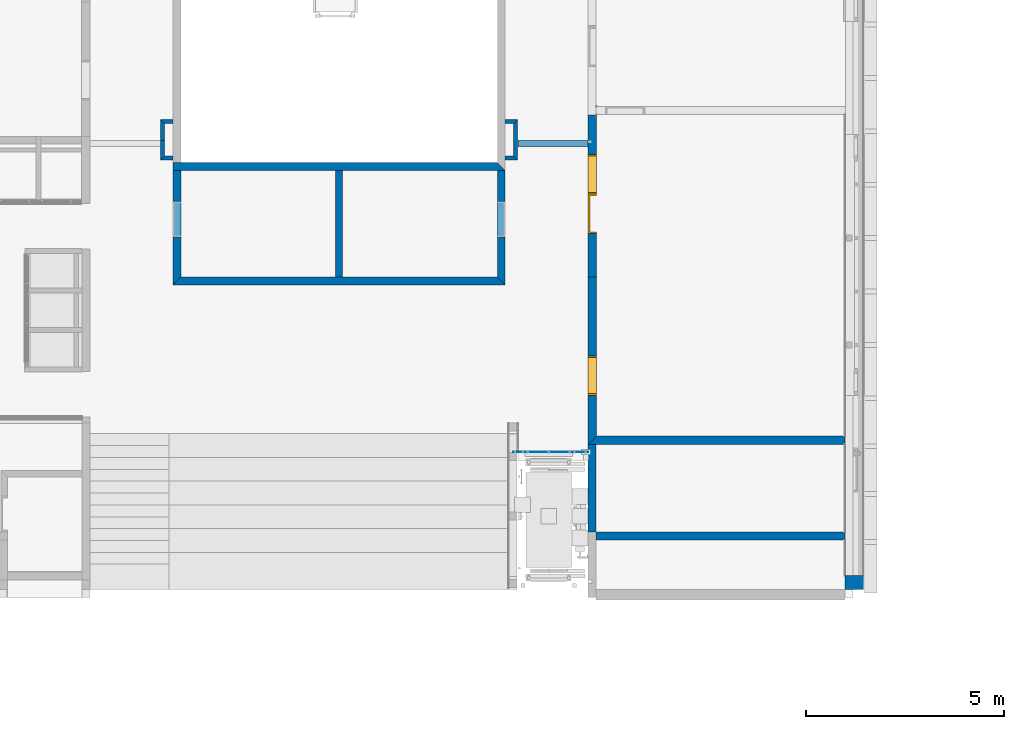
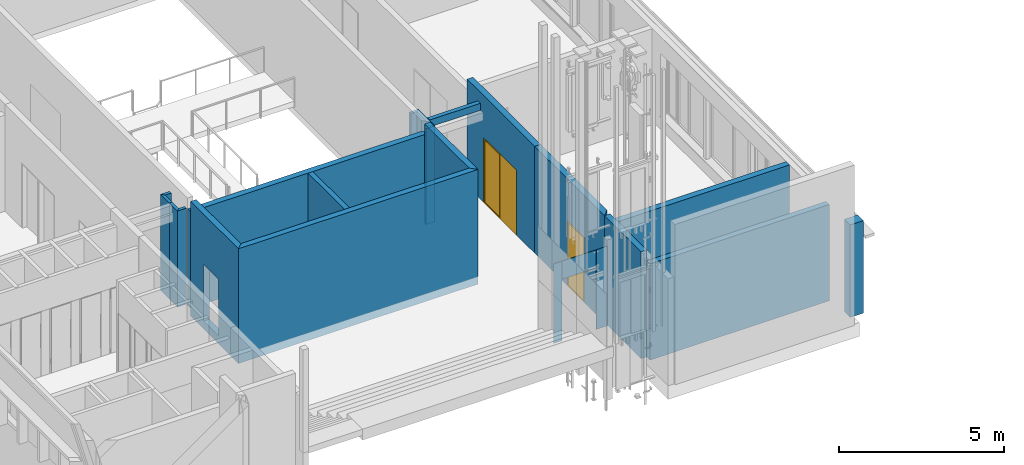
# One storey, part 13 of 89: 22 walls, 2 windows, 1 door, 5 openings.
"""IFC2X3 building model written with IfcOpenShell, lengths in millimetres."""

from ifc_helpers import new_model, entity, si_unit, converted_unit, derived_unit, money_unit, direction, frame, origin_with_axes, origin_2d_with_axis, place, context, subcontext, project, spatial, polyline, rectangle, outline, extrude, open_shell, faceted_brep, surface_model, source, transform, mapped, material, layer, layer_set, layer_usage, type_object, element, fill, save


model = new_model("IFC2X3")

# Units and contexts
model_context = context("Model", 3, precision=0.01, world=origin_with_axes(), true_north=direction((0.0, 1.0)))
body_context = subcontext(model_context, "Body", "Model", "MODEL_VIEW")
ifc_project = project(units=[si_unit("LENGTHUNIT", "METRE", prefix="MILLI"), si_unit("AREAUNIT", "SQUARE_METRE"), si_unit("VOLUMEUNIT", "CUBIC_METRE"), converted_unit("PLANEANGLEUNIT", "DEGREE", entity("IfcPlaneAngleMeasure", 0.0174532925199), si_unit("PLANEANGLEUNIT", "RADIAN"), dimensions=[0, 0, 0, 0, 0, 0, 0]), si_unit("SOLIDANGLEUNIT", "STERADIAN"), money_unit("EUR"), converted_unit("TIMEUNIT", "Year", entity("IfcTimeMeasure", 31556926.0), si_unit("TIMEUNIT", "SECOND"), dimensions=[0, 0, 1, 0, 0, 0, 0]), si_unit("MASSUNIT", "GRAM", prefix="KILO"), si_unit("THERMODYNAMICTEMPERATUREUNIT", "DEGREE_CELSIUS"), si_unit("LUMINOUSINTENSITYUNIT", "LUMEN"), si_unit("ENERGYUNIT", "JOULE", prefix="MEGA"), derived_unit("THERMALCONDUCTANCEUNIT", [(si_unit("POWERUNIT", "WATT"), 1), (si_unit("LENGTHUNIT", "METRE"), -1), (si_unit("THERMODYNAMICTEMPERATUREUNIT", "KELVIN"), -1)]), derived_unit("SPECIFICHEATCAPACITYUNIT", [(si_unit("ENERGYUNIT", "JOULE"), 1), (si_unit("MASSUNIT", "GRAM", prefix="KILO"), -1), (si_unit("THERMODYNAMICTEMPERATUREUNIT", "KELVIN"), -1)]), derived_unit("MASSDENSITYUNIT", [(si_unit("MASSUNIT", "GRAM", prefix="KILO"), 1), (si_unit("VOLUMEUNIT", "CUBIC_METRE"), -1)])], contexts=[model_context])

# Site, building, storey
site_placement = place(None, origin_with_axes())
site = spatial("IfcSite", under=ifc_project, at=site_placement, Name="Puškini 31, Narva", CompositionType="ELEMENT")
building_placement = place(site_placement, origin_with_axes())
building = spatial("IfcBuilding", under=site, at=building_placement, Name="Narva Riigigümnaasium", CompositionType="ELEMENT")
storey_placement = place(building_placement, frame((0.0, 0.0, -3300.0), z_axis=(0.0, 0.0, 1.0), x_axis=(1.0, 0.0, 0.0)))
storey = spatial("IfcBuildingStorey", under=building, at=storey_placement, Name="1.korrus -3.3", CompositionType="ELEMENT", Elevation=-3300.0)

# Walls
ifc_material_1 = material(Name="fassaadiplaat")
ifc_layer_1 = layer(ifc_material_1, 8.0, ventilated="UNKNOWN")
ifc_material_2 = material(Name="Salto-roovitus")
ifc_layer_2 = layer(ifc_material_2, 50.0, ventilated="UNKNOWN")
ifc_material_3 = material(Name="Salto-PIR soojustus")
ifc_layer_3 = layer(ifc_material_3, 50.0, ventilated="UNKNOWN")
ifc_layer_4 = layer(ifc_material_3, 150.0, ventilated="UNKNOWN")
ifc_material_4 = material(Name="Betoon element")
ifc_layer_5 = layer(ifc_material_4, 200.0, ventilated="UNKNOWN")
ifc_material_5 = material(Name="Salto-siseviimistlus-seinad")
ifc_layer_6 = layer(ifc_material_5, 10.0, ventilated="UNKNOWN")
ifc_layer_set_1 = layer_set([ifc_layer_1, ifc_layer_2, ifc_layer_3, ifc_layer_4, ifc_layer_5, ifc_layer_6], Name="G-VS-01")
ifc_layer_usage_1 = layer_usage(ifc_layer_set_1, "AXIS2", "NEGATIVE", 458.0)
wall_type_1 = type_object("IfcWallType", Name="G-VS-01 468", PredefinedType="NOTDEFINED")
wall_1_placement = place(storey_placement, frame((54000.000001, 195251.0, 136.939766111), z_axis=(0.0, 0.0, 1.0), x_axis=(0.0, -1.0, 0.0)))
element("IfcWallStandardCase", 1, at=wall_1_placement, inside=storey, type_object=wall_type_1, material=ifc_layer_usage_1, Name="Välissein", context=body_context, shape_type="SweptSolid", body=[
    extrude(outline(polyline([(0.0, -10.0), (351.0, -10.0), (351.0, 458.0), (0.0, 458.0), (0.0, -10.0)])), origin_with_axes(), (0.0, 0.0, 1.0), 3428.06023389),
])
ifc_layer_set_2 = layer_set([ifc_layer_5], Name="G-SS-01")
ifc_layer_usage_2 = layer_usage(ifc_layer_set_2, "AXIS2", "NEGATIVE", 0.0)
wall_type_2 = type_object("IfcWallType", Name="G-SS-01 200", PredefinedType="NOTDEFINED")
wall_2_placement = place(storey_placement, frame((45199.9999996, 202600.0, -290.0), z_axis=(0.0, 0.0, 1.0), x_axis=(-1.0, 0.0, 0.0)))
element("IfcWallStandardCase", 2, at=wall_2_placement, inside=storey, type_object=wall_type_2, material=ifc_layer_usage_2, Name="Sisesein", context=body_context, shape_type="SweptSolid", body=[
    extrude(outline(polyline([(0.0, -200.0), (8000.06783257, -200.0), (8200.06783257, 0.0), (-200.0, 0.0), (0.0, -200.0)])), origin_with_axes(), (0.0, 0.0, 1.0), 4250.0),
])

# Wall, opening
wall_3_placement = place(storey_placement, frame((45199.9999996, 202600.000006, -290.0), z_axis=(0.0, 0.0, 1.0), x_axis=(0.0, 1.0, 0.0)))
wall_3 = element("IfcWallStandardCase", 3, at=wall_3_placement, inside=storey, type_object=wall_type_2, material=ifc_layer_usage_2, Name="Sisesein", context=body_context, shape_type="SweptSolid", body=[
    extrude(outline(polyline([(-5.93698246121e-06, -200.0), (2900.00001827, -200.0), (2900.00001827, 0.0), (199.999994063, 0.0), (-5.93698246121e-06, -200.0)])), origin_with_axes(), (0.0, 0.0, 1.0), 4250.0),
])
opening_1_placement = place(wall_3_placement, frame((1665.00026742, 0.0, 290.0), z_axis=(0.0, 0.0, 1.0), x_axis=(1.0, 0.0, 0.0)))
element("IfcOpeningElement", 4, at=opening_1_placement, cuts=wall_3, Name="G-SU-038", context=body_context, shape_type="SweptSolid", body=[
    extrude(rectangle(XDim=900.0, YDim=2100.0, at=origin_2d_with_axis()), frame((0.0, 200.0, 1050.0), z_axis=(0.0, 1.0, 0.0), x_axis=(1.0, 0.0, 0.0)), (0.0, 0.0, -1.0), 600.0),
])

wall_4_placement = place(storey_placement, frame((37199.932167, 205700.000024, -290.0), z_axis=(0.0, 0.0, 1.0), x_axis=(0.0, -1.0, 0.0)))
wall_4 = element("IfcWallStandardCase", 5, at=wall_4_placement, inside=storey, type_object=wall_type_2, material=ifc_layer_usage_2, Name="Sisesein", context=body_context, shape_type="SweptSolid", body=[
    extrude(outline(polyline([(200.0, -200.0), (3100.00002421, -200.0), (2900.00002421, 0.0), (200.0, 0.0), (200.0, -200.0)])), origin_with_axes(), (0.0, 0.0, 1.0), 4250.0),
])
opening_2_placement = place(wall_4_placement, frame((1434.9998066, 0.0, 290.0), z_axis=(0.0, 0.0, 1.0), x_axis=(1.0, 0.0, 0.0)))
element("IfcOpeningElement", 6, at=opening_2_placement, cuts=wall_4, Name="G-SU-037", context=body_context, shape_type="SweptSolid", body=[
    extrude(rectangle(XDim=900.0, YDim=2100.0, at=origin_2d_with_axis()), frame((0.0, 200.0, 1050.0), z_axis=(0.0, -1.0, 0.0), x_axis=(-1.0, 0.0, 0.0)), (0.0, 0.0, 1.0), 600.0),
])

# Walls
wall_5_placement = place(storey_placement, frame((37000.0113588, 205700.000024, 0.0), z_axis=(0.0, 0.0, 1.0), x_axis=(1.0, 0.0, 0.0)))
element("IfcWallStandardCase", 7, at=wall_5_placement, inside=storey, type_object=wall_type_2, material=ifc_layer_usage_2, Name="Sisesein", context=body_context, shape_type="SweptSolid", body=[
    extrude(outline(polyline([(0.0, -200.0), (8399.98849607, -200.0), (8199.98849607, 0.0), (0.0, 0.0), (0.0, -200.0)])), origin_with_axes(), (0.0, 0.0, 1.0), 3565.0),
])
ifc_layer_usage_3 = layer_usage(ifc_layer_set_2, "AXIS2", "POSITIVE", 0.0)
wall_6_placement = place(storey_placement, frame((47499.9999928, 198570.000004, 0.0), z_axis=(0.0, 0.0, 1.0), x_axis=(0.0, -1.0, 0.0)))
element("IfcWallStandardCase", 8, at=wall_6_placement, inside=storey, type_object=wall_type_2, material=ifc_layer_usage_3, Name="Sisesein", context=body_context, shape_type="SweptSolid", body=[
    extrude(outline(polyline([(0.0, 0.0), (2220.00000313, 0.0), (2220.00000313, 200.0), (0.0, 200.0), (0.0, 0.0)])), origin_with_axes(), (0.0, 0.0, 1.0), 3960.0),
])
wall_7_placement = place(storey_placement, frame((54000.000001, 196150.0, 0.0), z_axis=(0.0, 0.0, 1.0), x_axis=(-1.0, 0.0, 0.0)))
element("IfcWallStandardCase", 9, at=wall_7_placement, inside=storey, type_object=wall_type_2, material=ifc_layer_usage_2, Name="Sisesein", context=body_context, shape_type="SweptSolid", body=[
    extrude(outline(polyline([(10.0, -200.0), (6300.00000824, -200.0), (6300.00000824, 0.0), (10.0, 0.0), (10.0, -200.0)])), origin_with_axes(), (0.0, 0.0, 1.0), 3565.0),
])
ifc_material_6 = material(Name="siseviimistlus-seinad")
ifc_layer_7 = layer(ifc_material_6, 15.0, ventilated="UNKNOWN")
ifc_material_7 = material(Name="Kipsplaat")
ifc_layer_8 = layer(ifc_material_7, 12.5, ventilated="UNKNOWN")
ifc_layer_9 = layer(ifc_material_7, 12.0, ventilated="UNKNOWN")
ifc_material_8 = material(Name="Karkass")
ifc_layer_10 = layer(ifc_material_8, 66.0, ventilated="UNKNOWN")
ifc_layer_set_3 = layer_set([ifc_layer_7, ifc_layer_8, ifc_layer_9, ifc_layer_10], Name="G-SS-06")
ifc_layer_usage_4 = layer_usage(ifc_layer_set_3, "AXIS2", "POSITIVE", 0.0)
wall_type_3 = type_object("IfcWallType", Name="G-SS-06 106", PredefinedType="NOTDEFINED")
wall_8_placement = place(storey_placement, frame((36686.0042688, 206250.0, 0.0), z_axis=(0.0, 0.0, 1.0), x_axis=(0.0, -1.0, 0.0)))
element("IfcWallStandardCase", 10, at=wall_8_placement, inside=storey, type_object=wall_type_3, material=ifc_layer_usage_4, Name="Sisesein", context=body_context, shape_type="SweptSolid", body=[
    extrude(outline(polyline([(0.0, 0.0), (493.992738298, 0.0), (388.492738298, 105.5), (0.0, 105.5), (0.0, 0.0)])), origin_with_axes(), (0.0, 0.0, 1.0), 3555.0),
])
ifc_layer_usage_5 = layer_usage(ifc_layer_set_3, "AXIS2", "NEGATIVE", 0.0)
wall_9_placement = place(storey_placement, frame((36686.0042688, 206250.0, 0.0), z_axis=(0.0, 0.0, 1.0), x_axis=(0.0, 1.0, 0.0)))
element("IfcWallStandardCase", 11, at=wall_9_placement, inside=storey, type_object=wall_type_3, material=ifc_layer_usage_5, Name="Sisesein", context=body_context, shape_type="SweptSolid", body=[
    extrude(outline(polyline([(0.0, -105.5), (427.500162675, -105.5), (533.000162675, 0.0), (0.0, 0.0), (0.0, -105.5)])), origin_with_axes(), (0.0, 0.0, 1.0), 3555.0),
])
wall_10_placement = place(storey_placement, frame((36686.0042688, 205756.007262, 0.0), z_axis=(0.0, 0.0, 1.0), x_axis=(1.0, 0.0, 0.0)))
element("IfcWallStandardCase", 12, at=wall_10_placement, inside=storey, type_object=wall_type_3, material=ifc_layer_usage_4, Name="Sisesein", context=body_context, shape_type="SweptSolid", body=[
    extrude(outline(polyline([(0.0, 0.0), (314.0, 0.0), (314.0, 105.5), (105.5, 105.5), (0.0, 0.0)])), origin_with_axes(), (0.0, 0.0, 1.0), 3555.0),
])
wall_11_placement = place(storey_placement, frame((36686.0042688, 206783.000163, 0.0), z_axis=(0.0, 0.0, 1.0), x_axis=(1.0, 0.0, 0.0)))
element("IfcWallStandardCase", 13, at=wall_11_placement, inside=storey, type_object=wall_type_3, material=ifc_layer_usage_5, Name="Sisesein", context=body_context, shape_type="SweptSolid", body=[
    extrude(outline(polyline([(105.5, -105.5), (314.0, -105.5), (314.0, 0.0), (0.0, 0.0), (105.5, -105.5)])), origin_with_axes(), (0.0, 0.0, 1.0), 3555.0),
])
wall_12_placement = place(storey_placement, frame((45713.9961864, 206783.000163, 0.0), z_axis=(0.0, 0.0, 1.0), x_axis=(0.0, -1.0, 0.0)))
element("IfcWallStandardCase", 14, at=wall_12_placement, inside=storey, type_object=wall_type_3, material=ifc_layer_usage_5, Name="Sisesein", context=body_context, shape_type="SweptSolid", body=[
    extrude(outline(polyline([(105.5, -105.5), (921.492900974, -105.5), (1026.99290097, 0.0), (0.0, 0.0), (105.5, -105.5)])), origin_with_axes(), (0.0, 0.0, 1.0), 3555.0),
])
wall_13_placement = place(storey_placement, frame((45713.9961864, 206783.000163, 0.0), z_axis=(0.0, 0.0, 1.0), x_axis=(-1.0, 0.0, 0.0)))
element("IfcWallStandardCase", 15, at=wall_13_placement, inside=storey, type_object=wall_type_3, material=ifc_layer_usage_4, Name="Sisesein", context=body_context, shape_type="SweptSolid", body=[
    extrude(outline(polyline([(0.0, 0.0), (313.996331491, 0.0), (313.996331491, 105.5), (105.5, 105.5), (0.0, 0.0)])), origin_with_axes(), (0.0, 0.0, 1.0), 3555.0),
])
wall_14_placement = place(storey_placement, frame((45713.9961864, 205756.007262, 0.0), z_axis=(0.0, 0.0, 1.0), x_axis=(-1.0, 0.0, 0.0)))
element("IfcWallStandardCase", 16, at=wall_14_placement, inside=storey, type_object=wall_type_3, material=ifc_layer_usage_5, Name="Sisesein", context=body_context, shape_type="SweptSolid", body=[
    extrude(outline(polyline([(105.5, -105.5), (313.996331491, -105.5), (313.996331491, 0.0), (0.0, 0.0), (105.5, -105.5)])), origin_with_axes(), (0.0, 0.0, 1.0), 3555.0),
])
ifc_material_9 = material(Name="SKR-02_Kipsplaat")
ifc_layer_11 = layer(ifc_material_9, 12.5, ventilated="UNKNOWN")
ifc_material_10 = material(Name="SOJ-03_Soojustus - Mineraal Pehme")
ifc_layer_12 = layer(ifc_material_10, 100.0, ventilated="UNKNOWN")
ifc_layer_set_4 = layer_set([ifc_layer_11, ifc_layer_11, ifc_layer_12, ifc_layer_11, ifc_layer_11], Name="G-SS-09")
ifc_layer_usage_6 = layer_usage(ifc_layer_set_4, "AXIS2", "NEGATIVE", 0.0)
wall_type_4 = type_object("IfcWallType", Name="G-SS-09 150", PredefinedType="NOTDEFINED")
wall_15_placement = place(storey_placement, frame((45719.9961864, 206250.0, 3295.0), z_axis=(0.0, 0.0, 1.0), x_axis=(1.0, 0.0, 0.0)))
element("IfcWallStandardCase", 17, at=wall_15_placement, inside=storey, type_object=wall_type_4, material=ifc_layer_usage_6, Name="Sisesein", context=body_context, shape_type="SweptSolid", body=[
    extrude(outline(polyline([(0.0, -150.0), (1780.00380639, -150.0), (1780.00380639, 0.0), (0.0, 0.0), (0.0, -150.0)])), origin_with_axes(), (0.0, 0.0, 1.0), 260.0),
])
ifc_material_11 = material(Name="Klaas")
ifc_layer_13 = layer(ifc_material_11, 12.0, ventilated="UNKNOWN")
ifc_layer_set_5 = layer_set([ifc_layer_13], Name="Klaas 12")
ifc_layer_usage_7 = layer_usage(ifc_layer_set_5, "AXIS2", "NEGATIVE", 12.0)
wall_type_5 = type_object("IfcWallType", Name="Klaas 12", PredefinedType="NOTDEFINED")
wall_16_placement = place(storey_placement, frame((45604.9999993, 198372.0, 0.0), z_axis=(0.0, 0.0, 1.0), x_axis=(1.0, 0.0, 0.0)))
element("IfcWallStandardCase", 18, at=wall_16_placement, inside=storey, type_object=wall_type_5, material=ifc_layer_usage_7, Name="Sisesein", context=body_context, shape_type="SweptSolid", body=[
    extrude(outline(polyline([(0.0, 0.0), (295.000000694, 0.0), (295.000000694, 12.0), (0.0, 12.0), (0.0, 0.0)])), origin_with_axes(), (0.0, 0.0, 1.0), 2949.0),
])
wall_17_placement = place(storey_placement, frame((47100.0, 198372.0, 0.0), z_axis=(0.0, 0.0, 1.0), x_axis=(1.0, 0.0, 0.0)))
element("IfcWallStandardCase", 19, at=wall_17_placement, inside=storey, type_object=wall_type_5, material=ifc_layer_usage_7, Name="Sisesein", context=body_context, shape_type="SweptSolid", body=[
    extrude(outline(polyline([(0.0, 0.0), (395.0, 0.0), (395.0, 12.0), (0.0, 12.0), (0.0, 0.0)])), origin_with_axes(), (0.0, 0.0, 1.0), 2949.0),
])
wall_18_placement = place(storey_placement, frame((45905.0, 198372.0, 2280.00001822), z_axis=(0.0, 0.0, 1.0), x_axis=(1.0, 0.0, 0.0)))
element("IfcWallStandardCase", 20, at=wall_18_placement, inside=storey, type_object=wall_type_5, material=ifc_layer_usage_7, Name="Sisesein", context=body_context, shape_type="SweptSolid", body=[
    extrude(outline(polyline([(0.0, 0.0), (1190.0, 0.0), (1190.0, 12.0), (0.0, 12.0), (0.0, 0.0)])), origin_with_axes(), (0.0, 0.0, 1.0), 668.999981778),
])

# Wall, openings, window, door
ifc_layer_14 = layer(ifc_material_6, 10.0, ventilated="UNKNOWN")
ifc_layer_set_6 = layer_set([ifc_layer_5, ifc_layer_14], Name="G-SS-01-02")
ifc_layer_usage_8 = layer_usage(ifc_layer_set_6, "AXIS2", "POSITIVE", 0.0)
wall_type_6 = type_object("IfcWallType", Name="G-SS-01-02 210", PredefinedType="NOTDEFINED")
wall_19_placement = place(storey_placement, frame((47499.9999928, 206900.000002, 0.0), z_axis=(0.0, 0.0, 1.0), x_axis=(0.0, -1.0, 0.0)))
wall_19 = element("IfcWallStandardCase", 21, at=wall_19_placement, inside=storey, type_object=wall_type_6, material=ifc_layer_usage_8, Name="Sisesein", context=body_context, shape_type="SweptSolid", body=[
    extrude(outline(polyline([(0.0, 0.0), (4099.99999602, 0.0), (4099.99999602, 210.0), (0.0, 210.0), (0.0, 0.0)])), origin_with_axes(), (0.0, 0.0, 1.0), 3960.0),
])
opening_3_placement = place(wall_19_placement, frame((1500.0, 0.0, 0.0), z_axis=(0.0, 0.0, 1.0), x_axis=(1.0, 0.0, 0.0)))
opening_3 = element("IfcOpeningElement", 22, at=opening_3_placement, cuts=wall_19, Name="G-SA-2", context=body_context, shape_type="SweptSolid", body=[
    extrude(rectangle(XDim=1000.0, YDim=2400.0, at=origin_2d_with_axis()), frame((0.0, 210.0, 1200.0), z_axis=(0.0, -1.0, 0.0), x_axis=(-1.0, 0.0, 0.0)), (0.0, 0.0, 1.0), 630.0),
])
opening_4_placement = place(wall_19_placement, frame((2500.0, 0.0, 0.0), z_axis=(0.0, 0.0, 1.0), x_axis=(1.0, 0.0, 0.0)))
opening_4 = element("IfcOpeningElement", 23, at=opening_4_placement, cuts=wall_19, Name="G-SU-035", context=body_context, shape_type="SweptSolid", body=[
    extrude(rectangle(XDim=1000.0, YDim=2400.0, at=origin_2d_with_axis()), frame((0.0, 210.0, 1200.0), z_axis=(0.0, 1.0, 0.0), x_axis=(1.0, 0.0, 0.0)), (0.0, 0.0, -1.0), 630.0),
])
window_style = type_object("IfcWindowStyle", Name="Window 23", ConstructionType="NOTDEFINED", OperationType="SINGLE_PANEL", ParameterTakesPrecedence=False, Sizeable=False)
shared_shape_1 = source(origin_with_axes(), body_context, "Body", "SurfaceModel", [
    faceted_brep([(-460.0, -210.0, 2360.0), (-460.0, 0.0, 2360.0), (-500.0, 0.0, 2360.0), (-500.0, -210.0, 2360.0), (-460.0, -210.0, 40.0), (-460.0, 0.0, 40.0), (-500.0, 0.0, 40.0), (-500.0, -210.0, 40.0)], [[[0, 1, 2, 3]], [[4, 5, 1, 0]], [[1, 5, 6, 2]], [[3, 2, 6, 7]], [[0, 3, 7, 4]], [[7, 6, 5, 4]]]),
    faceted_brep([(460.0, -210.0, 40.0), (460.0, 0.0, 40.0), (500.0, 0.0, 40.0), (500.0, -210.0, 40.0), (460.0, -210.0, 2360.0), (460.0, 0.0, 2360.0), (500.0, 0.0, 2360.0), (500.0, -210.0, 2360.0)], [[[0, 1, 2, 3]], [[4, 5, 1, 0]], [[1, 5, 6, 2]], [[3, 2, 6, 7]], [[0, 3, 7, 4]], [[7, 6, 5, 4]]]),
    faceted_brep([(-460.0, -210.0, 40.0), (-460.0, 0.0, 40.0), (-500.0, 0.0, 40.0), (-500.0, -210.0, 40.0), (460.0, -210.0, 40.0), (460.0, 0.0, 40.0), (500.0, 0.0, 40.0), (500.0, 0.0, 0.0), (-500.0, 0.0, 0.0), (-500.0, -210.0, 0.0), (500.0, -210.0, 0.0), (500.0, -210.0, 40.0)], [[[0, 1, 2, 3]], [[4, 5, 1, 0]], [[1, 5, 6, 7, 8, 2]], [[3, 2, 8, 9]], [[0, 3, 9, 10, 11, 4]], [[11, 6, 5, 4]], [[10, 7, 6, 11]], [[9, 8, 7, 10]]]),
    faceted_brep([(460.0, -210.0, 2360.0), (460.0, 0.0, 2360.0), (500.0, 0.0, 2360.0), (500.0, -210.0, 2360.0), (-460.0, -210.0, 2360.0), (-460.0, 0.0, 2360.0), (-500.0, 0.0, 2360.0), (-500.0, 0.0, 2400.0), (500.0, 0.0, 2400.0), (500.0, -210.0, 2400.0), (-500.0, -210.0, 2400.0), (-500.0, -210.0, 2360.0)], [[[0, 1, 2, 3]], [[4, 5, 1, 0]], [[1, 5, 6, 7, 8, 2]], [[3, 2, 8, 9]], [[0, 3, 9, 10, 11, 4]], [[11, 6, 5, 4]], [[10, 7, 6, 11]], [[9, 8, 7, 10]]]),
    surface_model("IfcShellBasedSurfaceModel", [(-460.0, -35.0, 40.0), (460.0, -35.0, 40.0), (460.0, -35.0, 2360.0), (-460.0, -35.0, 2360.0)], [open_shell([[[0, 1, 2, 3]]])]),
    surface_model("IfcShellBasedSurfaceModel", [(-460.0, -15.0, 40.0), (-460.0, -15.0, 2360.0), (460.0, -15.0, 2360.0), (460.0, -15.0, 40.0)], [open_shell([[[0, 1, 2, 3]]])]),
])
window_1_placement = place(opening_3_placement, frame((500.0, 0.0, 0.0), z_axis=(0.0, 0.0, 1.0), x_axis=(-1.0, 0.0, 0.0)))
window_1 = element("IfcWindow", 24, at=window_1_placement, inside=storey, type_object=window_style, Name="G-SA-2", ObjectType="WINDOW", OverallHeight=2400.0, OverallWidth=1000.0, context=body_context, shape_type="MappedRepresentation", body=[
    mapped(shared_shape_1, transform((500.0, 0.0, 0.0))),
])
fill(opening_3, window_1)
door_style = type_object("IfcDoorStyle", Name="Door 23", ConstructionType="NOTDEFINED", OperationType="SINGLE_SWING_LEFT", ParameterTakesPrecedence=False, Sizeable=False)
shared_shape_2 = source(origin_with_axes(), body_context, "Body", "Brep", [
    faceted_brep([(460.0, -40.0, 0.0), (460.0, -210.0, 0.0), (460.0, -210.0, 2360.0), (460.0, -40.0, 2360.0), (472.0, -40.0, 0.0), (472.0, 0.0, 0.0), (500.0, 0.0, 0.0), (500.0, -210.0, 0.0), (500.0, -210.0, 2360.0), (472.0, -40.0, 2360.0), (500.0, 0.0, 2360.0), (472.0, 0.0, 2360.0)], [[[0, 1, 2, 3]], [[4, 5, 6, 7, 1, 0]], [[1, 7, 8, 2]], [[9, 3, 2, 8, 10, 11]], [[9, 4, 0, 3]], [[11, 5, 4, 9]], [[11, 10, 6, 5]], [[6, 10, 8, 7]]]),
    faceted_brep([(-472.0, -40.0, 2360.0), (-472.0, 0.0, 2360.0), (-500.0, 0.0, 2360.0), (-500.0, -210.0, 2360.0), (-460.0, -210.0, 2360.0), (-460.0, -40.0, 2360.0), (-472.0, -40.0, 0.0), (-472.0, 0.0, 0.0), (-500.0, 0.0, 0.0), (-500.0, -210.0, 0.0), (-460.0, -210.0, 0.0), (-460.0, -40.0, 0.0)], [[[0, 1, 2, 3, 4, 5]], [[0, 6, 7, 1]], [[7, 8, 2, 1]], [[2, 8, 9, 3]], [[3, 9, 10, 4]], [[5, 4, 10, 11]], [[5, 11, 6, 0]], [[6, 11, 10, 9, 8, 7]]]),
    faceted_brep([(472.0, 0.0, 2372.0), (-472.0, 0.0, 2372.0), (-472.0, 0.0, 2360.0), (-500.0, 0.0, 2360.0), (-500.0, 0.0, 2400.0), (500.0, 0.0, 2400.0), (500.0, 0.0, 2360.0), (472.0, 0.0, 2360.0), (472.0, -40.0, 2372.0), (-472.0, -40.0, 2372.0), (-472.0, -40.0, 2360.0), (-460.0, -40.0, 2360.0), (-460.0, -210.0, 2360.0), (-500.0, -210.0, 2360.0), (-500.0, -210.0, 2400.0), (500.0, -210.0, 2400.0), (500.0, -210.0, 2360.0), (472.0, -40.0, 2360.0), (460.0, -210.0, 2360.0), (460.0, -40.0, 2360.0)], [[[0, 1, 2, 3, 4, 5, 6, 7]], [[0, 8, 9, 1]], [[1, 9, 10, 2]], [[10, 11, 12, 13, 3, 2]], [[4, 3, 13, 14]], [[5, 4, 14, 15]], [[6, 5, 15, 16]], [[17, 7, 6, 16, 18, 19]], [[7, 17, 8, 0]], [[10, 9, 8, 17, 19, 11]], [[19, 18, 12, 11]], [[12, 18, 16, 15, 14, 13]]]),
    faceted_brep([(-472.0, 0.0, 0.0), (472.0, 0.0, 0.0), (472.0, -40.0, 0.0), (-472.0, -40.0, 0.0), (-472.0, 0.0, 2372.0), (472.0, 0.0, 2372.0), (472.0, -40.0, 2372.0), (-472.0, -40.0, 2372.0)], [[[0, 1, 2, 3]], [[0, 4, 5, 1]], [[1, 5, 6, 2]], [[3, 2, 6, 7]], [[4, 0, 3, 7]], [[5, 4, 7, 6]]]),
])
door_placement = place(opening_4_placement, frame((500.0, 0.0, 0.0), z_axis=(0.0, 0.0, 1.0), x_axis=(-1.0, 0.0, 0.0)))
door = element("IfcDoor", 25, at=door_placement, inside=storey, type_object=door_style, Name="G-SU-035", ObjectType="DOOR", OverallHeight=2400.0, OverallWidth=1000.0, context=body_context, shape_type="MappedRepresentation", body=[
    mapped(shared_shape_2, transform((500.0, 0.0, 0.0))),
])
fill(opening_4, door)

# Wall, opening, window
wall_20_placement = place(storey_placement, frame((47499.9999928, 202800.000006, 0.0), z_axis=(0.0, 0.0, 1.0), x_axis=(0.0, -1.0, 0.0)))
wall_20 = element("IfcWallStandardCase", 26, at=wall_20_placement, inside=storey, type_object=wall_type_6, material=ifc_layer_usage_8, Name="Sisesein", context=body_context, shape_type="SweptSolid", body=[
    extrude(outline(polyline([(0.0, 0.0), (4230.00000232, 0.0), (4020.00000232, 210.0), (0.0, 210.0), (0.0, 0.0)])), origin_with_axes(), (0.0, 0.0, 1.0), 3960.0),
])
opening_5_placement = place(wall_20_placement, frame((2489.84873413, 0.0, 0.0), z_axis=(0.0, 0.0, 1.0), x_axis=(1.0, 0.0, 0.0)))
opening_5 = element("IfcOpeningElement", 27, at=opening_5_placement, cuts=wall_20, Name="G-SA-2", context=body_context, shape_type="SweptSolid", body=[
    extrude(rectangle(XDim=1000.0, YDim=2400.0, at=origin_2d_with_axis()), frame((0.0, 210.0, 1200.0), z_axis=(0.0, -1.0, 0.0), x_axis=(-1.0, 0.0, 0.0)), (0.0, 0.0, 1.0), 630.0),
])
window_2_placement = place(opening_5_placement, frame((500.0, 0.0, 0.0), z_axis=(0.0, 0.0, 1.0), x_axis=(-1.0, 0.0, 0.0)))
window_2 = element("IfcWindow", 28, at=window_2_placement, inside=storey, type_object=window_style, Name="G-SA-2", ObjectType="WINDOW", OverallHeight=2400.0, OverallWidth=1000.0, context=body_context, shape_type="MappedRepresentation", body=[
    mapped(shared_shape_1, transform((500.0, 0.0, 0.0))),
])
fill(opening_5, window_2)

# Walls
wall_21_placement = place(storey_placement, frame((47499.9999802, 198570.000004, 0.0), z_axis=(0.0, 0.0, 1.0), x_axis=(1.0, 0.0, 0.0)))
element("IfcWallStandardCase", 29, at=wall_21_placement, inside=storey, type_object=wall_type_6, material=ifc_layer_usage_8, Name="Sisesein", context=body_context, shape_type="SweptSolid", body=[
    extrude(outline(polyline([(1.26230688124e-05, 0.0), (6490.00002087, 0.0), (6490.00002087, 210.0), (210.000012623, 210.0), (1.26230688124e-05, 0.0)])), origin_with_axes(), (0.0, 0.0, 1.0), 3565.0),
])
ifc_material_12 = material(Name="kergbetoonplokk")
ifc_layer_15 = layer(ifc_material_12, 150.0, ventilated="UNKNOWN")
ifc_layer_set_7 = layer_set([ifc_layer_14, ifc_layer_15, ifc_layer_14], Name="G-SS-04")
ifc_layer_usage_9 = layer_usage(ifc_layer_set_7, "AXIS2", "NEGATIVE", 85.0)
wall_type_7 = type_object("IfcWallType", Name="G-SS-04 170", PredefinedType="NOTDEFINED")
wall_22_placement = place(storey_placement, frame((41200.0067283, 205500.000024, 0.0), z_axis=(0.0, 0.0, 1.0), x_axis=(0.0, -1.0, 0.0)))
element("IfcWallStandardCase", 30, at=wall_22_placement, inside=storey, type_object=wall_type_7, material=ifc_layer_usage_9, Name="Sisesein", context=body_context, shape_type="SweptSolid", body=[
    extrude(outline(polyline([(0.0, -85.0), (2700.00002421, -85.0), (2700.00002421, 85.0), (0.0, 85.0), (0.0, -85.0)])), origin_with_axes(), (0.0, 0.0, 1.0), 3565.0),
])

save(model, "model.ifc")
